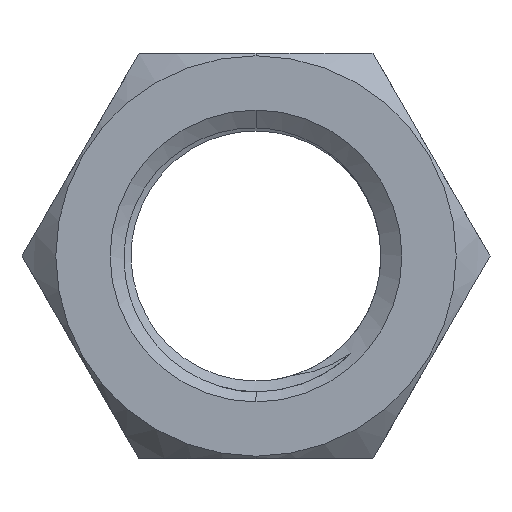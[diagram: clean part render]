
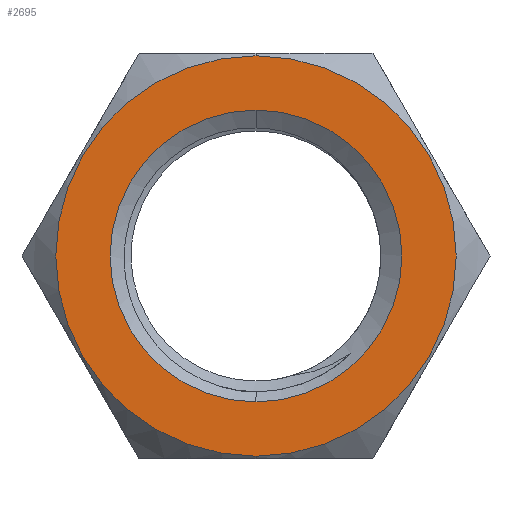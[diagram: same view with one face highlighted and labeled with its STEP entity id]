
A CAD part, front view. The second image highlights one B-rep face of the part: STEP entity #2695.
In plain terms, the highlighted planar face has unit normal (0, -1, 0).
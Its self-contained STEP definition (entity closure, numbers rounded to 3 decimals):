
#19 = CARTESIAN_POINT ( 'NONE',  ( 0., -7.75, 14.821 ) ) ;
#110 = CARTESIAN_POINT ( 'NONE',  ( 0., -7.75, 0. ) ) ;
#285 = EDGE_CURVE ( 'NONE', #3227, #2284, #1101, .T. ) ;
#356 = CARTESIAN_POINT ( 'NONE',  ( 0., -7.75, 0. ) ) ;
#378 = DIRECTION ( 'NONE',  ( 0., -1., 0. ) ) ;
#487 = CARTESIAN_POINT ( 'NONE',  ( 0., -7.75, 0. ) ) ;
#591 = CARTESIAN_POINT ( 'NONE',  ( 0., -7.75, 0. ) ) ;
#721 = EDGE_CURVE ( 'NONE', #2634, #1981, #1731, .T. ) ;
#742 = DIRECTION ( 'NONE',  ( 0., 0., -1. ) ) ;
#888 = DIRECTION ( 'NONE',  ( 0., 0., -1. ) ) ;
#896 = AXIS2_PLACEMENT_3D ( 'NONE', #984, #2932, #2949 ) ;
#931 = FACE_BOUND ( 'NONE', #2495, .T. ) ;
#984 = CARTESIAN_POINT ( 'NONE',  ( 0., -7.75, 0. ) ) ;
#1101 = CIRCLE ( 'NONE', #2235, 14.821 ) ;
#1107 = AXIS2_PLACEMENT_3D ( 'NONE', #591, #2269, #1840 ) ;
#1236 = ORIENTED_EDGE ( 'NONE', *, *, #285, .T. ) ;
#1424 = ORIENTED_EDGE ( 'NONE', *, *, #2738, .T. ) ;
#1441 = DIRECTION ( 'NONE',  ( 0., -1., 0. ) ) ;
#1465 = AXIS2_PLACEMENT_3D ( 'NONE', #356, #3148, #888 ) ;
#1630 = EDGE_CURVE ( 'NONE', #1981, #2634, #2549, .T. ) ;
#1662 = FACE_OUTER_BOUND ( 'NONE', #2159, .T. ) ;
#1683 = CARTESIAN_POINT ( 'NONE',  ( 0., -7.75, 10.8 ) ) ;
#1731 = CIRCLE ( 'NONE', #1465, 10.8 ) ;
#1840 = DIRECTION ( 'NONE',  ( 0., 0., -1. ) ) ;
#1916 = ORIENTED_EDGE ( 'NONE', *, *, #721, .F. ) ;
#1981 = VERTEX_POINT ( 'NONE', #1683 ) ;
#2159 = EDGE_LOOP ( 'NONE', ( #1424, #1236 ) ) ;
#2166 = CARTESIAN_POINT ( 'NONE',  ( 0., -7.75, -10.8 ) ) ;
#2235 = AXIS2_PLACEMENT_3D ( 'NONE', #110, #378, #2624 ) ;
#2269 = DIRECTION ( 'NONE',  ( 0., -1., 0. ) ) ;
#2284 = VERTEX_POINT ( 'NONE', #19 ) ;
#2452 = AXIS2_PLACEMENT_3D ( 'NONE', #487, #1441, #742 ) ;
#2495 = EDGE_LOOP ( 'NONE', ( #2657, #1916 ) ) ;
#2549 = CIRCLE ( 'NONE', #1107, 10.8 ) ;
#2624 = DIRECTION ( 'NONE',  ( 0., 0., -1. ) ) ;
#2634 = VERTEX_POINT ( 'NONE', #2166 ) ;
#2657 = ORIENTED_EDGE ( 'NONE', *, *, #1630, .F. ) ;
#2680 = CARTESIAN_POINT ( 'NONE',  ( 0., -7.75, -14.821 ) ) ;
#2682 = PLANE ( 'NONE',  #896 ) ;
#2695 = ADVANCED_FACE ( 'NONE', ( #931, #1662 ), #2682, .F. ) ;
#2738 = EDGE_CURVE ( 'NONE', #2284, #3227, #3078, .T. ) ;
#2932 = DIRECTION ( 'NONE',  ( 0., 1., 0. ) ) ;
#2949 = DIRECTION ( 'NONE',  ( 0., 0., 1. ) ) ;
#3078 = CIRCLE ( 'NONE', #2452, 14.821 ) ;
#3148 = DIRECTION ( 'NONE',  ( 0., -1., 0. ) ) ;
#3227 = VERTEX_POINT ( 'NONE', #2680 ) ;
